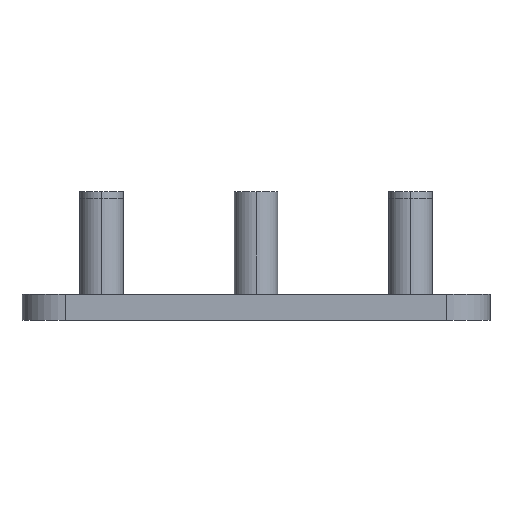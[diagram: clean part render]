
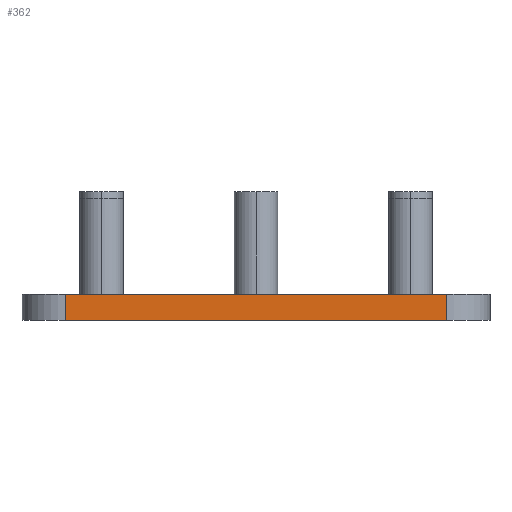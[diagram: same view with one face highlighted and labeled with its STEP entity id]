
A CAD part, left-side view. The second image highlights one B-rep face of the part: STEP entity #362.
In plain terms, the highlighted planar face has unit normal (-1, 0, 0).
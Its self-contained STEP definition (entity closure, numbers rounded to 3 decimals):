
#23 = CARTESIAN_POINT ( 'NONE',  ( -29.9, 21.9, 3. ) ) ;
#62 = DIRECTION ( 'NONE',  ( 0., 1., 0. ) ) ;
#88 = LINE ( 'NONE', #134, #1066 ) ;
#89 = ORIENTED_EDGE ( 'NONE', *, *, #495, .T. ) ;
#134 = CARTESIAN_POINT ( 'NONE',  ( -29.9, 21.9, 14.75 ) ) ;
#184 = LINE ( 'NONE', #1042, #1064 ) ;
#307 = ORIENTED_EDGE ( 'NONE', *, *, #1043, .T. ) ;
#336 = VERTEX_POINT ( 'NONE', #1333 ) ;
#356 = VECTOR ( 'NONE', #1039, 1000. ) ;
#362 = ADVANCED_FACE ( 'NONE', ( #733 ), #1240, .F. ) ;
#378 = DIRECTION ( 'NONE',  ( 0., -1., 0. ) ) ;
#484 = AXIS2_PLACEMENT_3D ( 'NONE', #616, #1125, #62 ) ;
#495 = EDGE_CURVE ( 'NONE', #674, #336, #184, .T. ) ;
#616 = CARTESIAN_POINT ( 'NONE',  ( -29.9, 0., 14.75 ) ) ;
#649 = VECTOR ( 'NONE', #979, 1000. ) ;
#674 = VERTEX_POINT ( 'NONE', #928 ) ;
#733 = FACE_OUTER_BOUND ( 'NONE', #933, .T. ) ;
#785 = LINE ( 'NONE', #1211, #649 ) ;
#891 = DIRECTION ( 'NONE',  ( 0., 0., -1. ) ) ;
#922 = EDGE_CURVE ( 'NONE', #926, #674, #88, .T. ) ;
#926 = VERTEX_POINT ( 'NONE', #23 ) ;
#928 = CARTESIAN_POINT ( 'NONE',  ( -29.9, 21.9, 0. ) ) ;
#933 = EDGE_LOOP ( 'NONE', ( #307, #1162, #89, #1315 ) ) ;
#955 = CARTESIAN_POINT ( 'NONE',  ( -29.9, -21.9, 3. ) ) ;
#967 = LINE ( 'NONE', #1312, #356 ) ;
#979 = DIRECTION ( 'NONE',  ( 0., 1., 0. ) ) ;
#1039 = DIRECTION ( 'NONE',  ( 0., 0., -1. ) ) ;
#1042 = CARTESIAN_POINT ( 'NONE',  ( -29.9, 0., 0. ) ) ;
#1043 = EDGE_CURVE ( 'NONE', #1308, #926, #785, .T. ) ;
#1064 = VECTOR ( 'NONE', #378, 1000. ) ;
#1066 = VECTOR ( 'NONE', #891, 1000. ) ;
#1125 = DIRECTION ( 'NONE',  ( 1., 0., 0. ) ) ;
#1162 = ORIENTED_EDGE ( 'NONE', *, *, #922, .T. ) ;
#1211 = CARTESIAN_POINT ( 'NONE',  ( -29.9, 0., 3. ) ) ;
#1240 = PLANE ( 'NONE',  #484 ) ;
#1303 = EDGE_CURVE ( 'NONE', #1308, #336, #967, .T. ) ;
#1308 = VERTEX_POINT ( 'NONE', #955 ) ;
#1312 = CARTESIAN_POINT ( 'NONE',  ( -29.9, -21.9, 14.75 ) ) ;
#1315 = ORIENTED_EDGE ( 'NONE', *, *, #1303, .F. ) ;
#1333 = CARTESIAN_POINT ( 'NONE',  ( -29.9, -21.9, 0. ) ) ;
